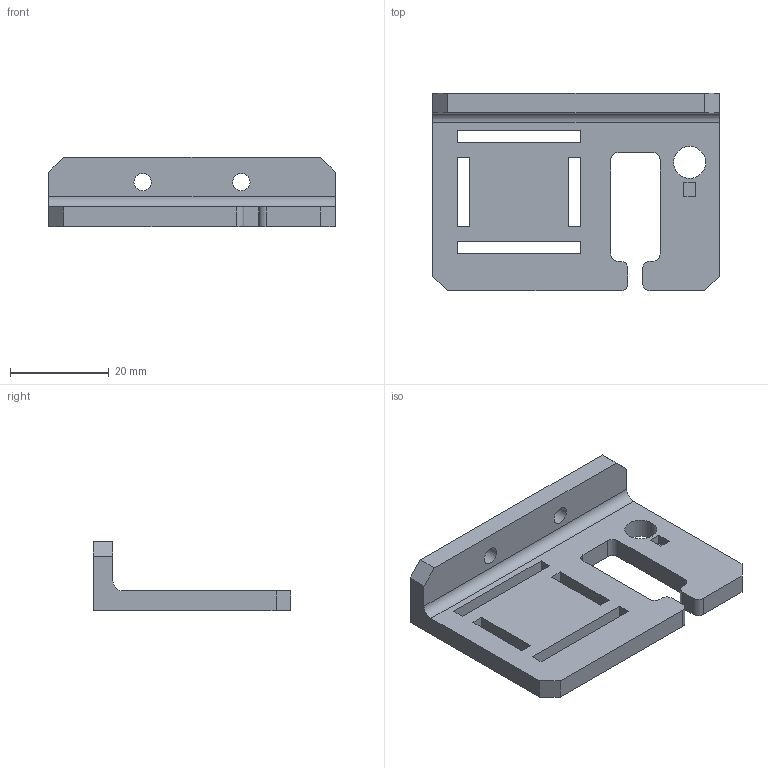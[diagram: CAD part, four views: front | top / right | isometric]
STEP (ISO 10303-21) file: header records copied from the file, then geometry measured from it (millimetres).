
FILE_DESCRIPTION(/* description */ ('Alibre Inc.'),/* implementation_level */ '2;1');
FILE_NAME(/* name */ 'export-D907150F-1C31-4F05-AA4B-DD1FAF17834D',/* time_stamp */ '2026-01-19T12:33:45+00:00',/* author */ (''),/* organization */ (''),/* preprocessor_version */ 'ST-DEVELOPER v17',/* originating_system */ 'Alibre',/* authorisation */ '');
FILE_SCHEMA (('CONFIG_CONTROL_DESIGN'));
Length unit declared in the file: millimetre
Bounding box: 58 x 40 x 14 mm (x, y, z)
Volume: 9621.7 mm3; surface area: 6735.6 mm2
Topology: 1 solids, 1 shells, 53 faces, 150 edges, 100 vertices
Faces by surface type: plane 41, cylinder 12
Full cylindrical faces by diameter (mm): 3.5 x2, 6.5 x1
Entity records: 1741 total; most frequent: ORIENTED_EDGE 294, CARTESIAN_POINT 294, DIRECTION 230, EDGE_CURVE 147, VECTOR 119, LINE 119, VERTEX_POINT 100, AXIS2_PLACEMENT_3D 75
